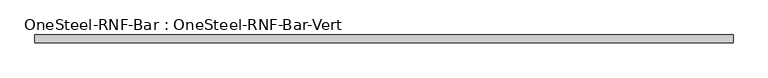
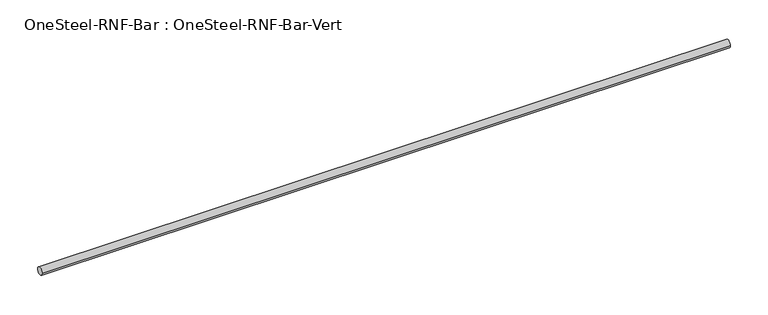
"""IFC4 building model written with IfcOpenShell, lengths in millimetres: proxy geometry, OneSteel-RNF-Bar : OneSteel-RNF-Bar-Vert."""

from ifc_helpers import new_model, si_unit, point, frame, origin, origin_2d, place, context, project, spatial, circle_curve, trimmed, segment, composite_curve, outline, extrude, source, transform, mapped, element, save


def onesteel_rnf_bar_onesteel_rnf_bar_vert_0c4c5851(model_context):
    return source(origin(), model_context, "Body", "SweptSolid", [
        extrude(outline(composite_curve([segment(trimmed(circle_curve(origin_2d(), 6.0), [point((-6.0, 0.0))], [point((6.0, 0.0))], False, "CARTESIAN"), True, "CONTINUOUS"), segment(trimmed(circle_curve(origin_2d(), 6.0), [point((6.0, 0.0))], [point((-6.0, 0.0))], False, "CARTESIAN"), True, "CONTINUOUS")], self_intersect=False)), frame((0.0, 0.0, 0.0), z_axis=(1.0, 0.0, 0.0), x_axis=(0.0, 1.0, 0.0)), (0.0, 0.0, 1.0), 1055.0),
    ])


if __name__ == "__main__":
    model = new_model("IFC4")
    model_context = context("Model", 3, world=origin())
    ifc_project = project(units=[si_unit("LENGTHUNIT", "METRE", prefix="MILLI")], contexts=[model_context])
    site = spatial("IfcSite", under=ifc_project)
    building = spatial("IfcBuilding", under=site)
    placement = place(None, origin())
    onesteel_rnf_bar_onesteel_rnf_bar_vert_shape = onesteel_rnf_bar_onesteel_rnf_bar_vert_0c4c5851(model_context)
    element("IfcBuildingElementProxy", 1, Name="OneSteel-RNF-Bar : OneSteel-RNF-Bar-Vert", ObjectType="OneSteel-RNF-Bar : OneSteel-RNF-Bar-Vert", at=placement, inside=building, context=model_context, shape_type="MappedRepresentation", body=[
        mapped(onesteel_rnf_bar_onesteel_rnf_bar_vert_shape, transform((0.0, 0.0, 0.0), x_axis=(1.0, 0.0, 0.0), y_axis=(0.0, 1.0, 0.0), z_axis=(0.0, 0.0, 1.0))),
    ])
    save(model, "model.ifc")
